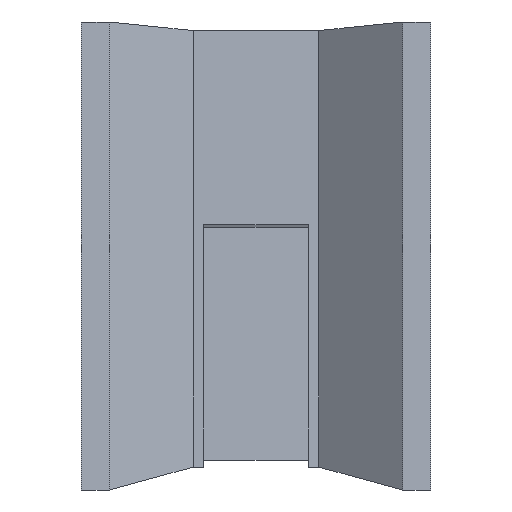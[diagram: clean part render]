
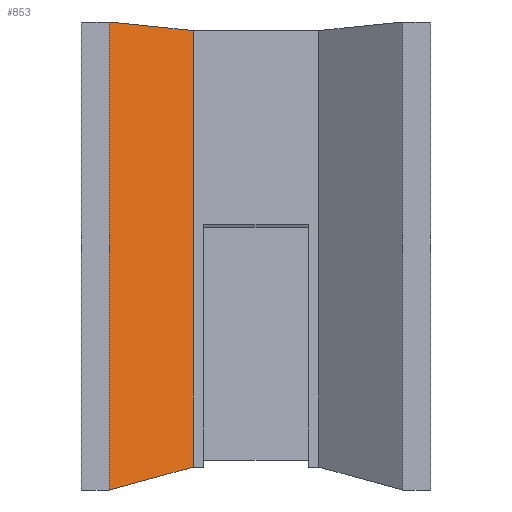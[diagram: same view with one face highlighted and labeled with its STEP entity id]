
A CAD part, front view. The second image highlights one B-rep face of the part: STEP entity #853.
In plain terms, the highlighted planar face has unit normal (0.643, -0.76, 0.093).
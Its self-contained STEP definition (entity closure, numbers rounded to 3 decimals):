
#44 = PLANE('',#45);
#45 = AXIS2_PLACEMENT_3D('',#46,#47,#48);
#46 = CARTESIAN_POINT('',(-27.,31.481,-144.771));
#47 = DIRECTION('',(-0.,-0.297,0.955));
#48 = DIRECTION('',(0.,0.955,0.297));
#100 = PLANE('',#101);
#101 = AXIS2_PLACEMENT_3D('',#102,#103,#104);
#102 = CARTESIAN_POINT('',(0.,15.752,
    -88.423));
#103 = DIRECTION('',(-0.,-0.122,-0.993));
#104 = DIRECTION('',(1.,0.,0.));
#126 = PLANE('',#127);
#127 = AXIS2_PLACEMENT_3D('',#128,#129,#130);
#128 = CARTESIAN_POINT('',(-25.,0.,-155.));
#129 = DIRECTION('',(-0.,-0.993,0.122));
#130 = DIRECTION('',(-1.,0.,0.));
#142 = VERTEX_POINT('',#143);
#143 = CARTESIAN_POINT('',(-21.,0.055,-154.552));
#400 = PLANE('',#401);
#401 = AXIS2_PLACEMENT_3D('',#402,#403,#404);
#402 = CARTESIAN_POINT('',(-9.,9.994,-156.227));
#403 = DIRECTION('',(-0.,-0.993,0.122));
#404 = DIRECTION('',(-1.,0.,0.));
#497 = VERTEX_POINT('',#498);
#498 = CARTESIAN_POINT('',(-9.,10.603,-151.269));
#519 = EDGE_CURVE('',#142,#497,#520,.T.);
#520 = SURFACE_CURVE('',#521,(#525,#532),.PCURVE_S1.);
#521 = LINE('',#522,#523);
#522 = CARTESIAN_POINT('',(-14.47,5.795,
    -152.766));
#523 = VECTOR('',#524,1.);
#524 = DIRECTION('',(0.736,0.647,0.201));
#525 = PCURVE('',#44,#526);
#526 = DEFINITIONAL_REPRESENTATION('',(#527),#531);
#527 = LINE('',#528,#529);
#528 = CARTESIAN_POINT('',(-26.902,-12.53));
#529 = VECTOR('',#530,1.);
#530 = DIRECTION('',(0.677,-0.736));
#531 = ( GEOMETRIC_REPRESENTATION_CONTEXT(2) 
PARAMETRIC_REPRESENTATION_CONTEXT() REPRESENTATION_CONTEXT('2D SPACE',''
  ) );
#532 = PCURVE('',#533,#538);
#533 = PLANE('',#534);
#534 = AXIS2_PLACEMENT_3D('',#535,#536,#537);
#535 = CARTESIAN_POINT('',(-21.,0.,-155.));
#536 = DIRECTION('',(0.643,-0.76,0.093)
  );
#537 = DIRECTION('',(-0.766,-0.638,0.078)
  );
#538 = DEFINITIONAL_REPRESENTATION('',(#539),#543);
#539 = LINE('',#540,#541);
#540 = CARTESIAN_POINT('',(-8.524,-2.924));
#541 = VECTOR('',#542,1.);
#542 = DIRECTION('',(-0.96,-0.279));
#543 = ( GEOMETRIC_REPRESENTATION_CONTEXT(2) 
PARAMETRIC_REPRESENTATION_CONTEXT() REPRESENTATION_CONTEXT('2D SPACE',''
  ) );
#551 = VERTEX_POINT('',#552);
#552 = CARTESIAN_POINT('',(-21.,8.287,-87.507));
#573 = EDGE_CURVE('',#142,#551,#574,.T.);
#574 = SURFACE_CURVE('',#575,(#579,#586),.PCURVE_S1.);
#575 = LINE('',#576,#577);
#576 = CARTESIAN_POINT('',(-21.,0.,-155.));
#577 = VECTOR('',#578,1.);
#578 = DIRECTION('',(-0.,0.122,0.993));
#579 = PCURVE('',#126,#580);
#580 = DEFINITIONAL_REPRESENTATION('',(#581),#585);
#581 = LINE('',#582,#583);
#582 = CARTESIAN_POINT('',(-4.,-0.));
#583 = VECTOR('',#584,1.);
#584 = DIRECTION('',(-0.,-1.));
#585 = ( GEOMETRIC_REPRESENTATION_CONTEXT(2) 
PARAMETRIC_REPRESENTATION_CONTEXT() REPRESENTATION_CONTEXT('2D SPACE',''
  ) );
#586 = PCURVE('',#533,#587);
#587 = DEFINITIONAL_REPRESENTATION('',(#588),#592);
#588 = LINE('',#589,#590);
#589 = CARTESIAN_POINT('',(-0.,-0.));
#590 = VECTOR('',#591,1.);
#591 = DIRECTION('',(0.,-1.));
#592 = ( GEOMETRIC_REPRESENTATION_CONTEXT(2) 
PARAMETRIC_REPRESENTATION_CONTEXT() REPRESENTATION_CONTEXT('2D SPACE',''
  ) );
#599 = EDGE_CURVE('',#551,#600,#602,.T.);
#600 = VERTEX_POINT('',#601);
#601 = CARTESIAN_POINT('',(-9.,18.281,-88.734));
#602 = SURFACE_CURVE('',#603,(#607,#614),.PCURVE_S1.);
#603 = LINE('',#604,#605);
#604 = CARTESIAN_POINT('',(-12.987,14.961,
    -88.326));
#605 = VECTOR('',#606,1.);
#606 = DIRECTION('',(0.766,0.638,-0.078)
  );
#607 = PCURVE('',#100,#608);
#608 = DEFINITIONAL_REPRESENTATION('',(#609),#613);
#609 = LINE('',#610,#611);
#610 = CARTESIAN_POINT('',(-12.987,0.797));
#611 = VECTOR('',#612,1.);
#612 = DIRECTION('',(0.766,-0.643));
#613 = ( GEOMETRIC_REPRESENTATION_CONTEXT(2) 
PARAMETRIC_REPRESENTATION_CONTEXT() REPRESENTATION_CONTEXT('2D SPACE',''
  ) );
#614 = PCURVE('',#533,#615);
#615 = DEFINITIONAL_REPRESENTATION('',(#616),#620);
#616 = LINE('',#617,#618);
#617 = CARTESIAN_POINT('',(-10.461,-68.));
#618 = VECTOR('',#619,1.);
#619 = DIRECTION('',(-1.,0.));
#620 = ( GEOMETRIC_REPRESENTATION_CONTEXT(2) 
PARAMETRIC_REPRESENTATION_CONTEXT() REPRESENTATION_CONTEXT('2D SPACE',''
  ) );
#853 = ADVANCED_FACE('',(#854),#533,.T.);
#854 = FACE_BOUND('',#855,.F.);
#855 = EDGE_LOOP('',(#856,#857,#858,#859));
#856 = ORIENTED_EDGE('',*,*,#519,.F.);
#857 = ORIENTED_EDGE('',*,*,#573,.T.);
#858 = ORIENTED_EDGE('',*,*,#599,.T.);
#859 = ORIENTED_EDGE('',*,*,#860,.F.);
#860 = EDGE_CURVE('',#497,#600,#861,.T.);
#861 = SURFACE_CURVE('',#862,(#866,#873),.PCURVE_S1.);
#862 = LINE('',#863,#864);
#863 = CARTESIAN_POINT('',(-9.,9.994,-156.227));
#864 = VECTOR('',#865,1.);
#865 = DIRECTION('',(-0.,0.122,0.993));
#866 = PCURVE('',#533,#867);
#867 = DEFINITIONAL_REPRESENTATION('',(#868),#872);
#868 = LINE('',#869,#870);
#869 = CARTESIAN_POINT('',(-15.665,0.));
#870 = VECTOR('',#871,1.);
#871 = DIRECTION('',(0.,-1.));
#872 = ( GEOMETRIC_REPRESENTATION_CONTEXT(2) 
PARAMETRIC_REPRESENTATION_CONTEXT() REPRESENTATION_CONTEXT('2D SPACE',''
  ) );
#873 = PCURVE('',#400,#874);
#874 = DEFINITIONAL_REPRESENTATION('',(#875),#879);
#875 = LINE('',#876,#877);
#876 = CARTESIAN_POINT('',(-0.,-0.));
#877 = VECTOR('',#878,1.);
#878 = DIRECTION('',(-0.,-1.));
#879 = ( GEOMETRIC_REPRESENTATION_CONTEXT(2) 
PARAMETRIC_REPRESENTATION_CONTEXT() REPRESENTATION_CONTEXT('2D SPACE',''
  ) );
